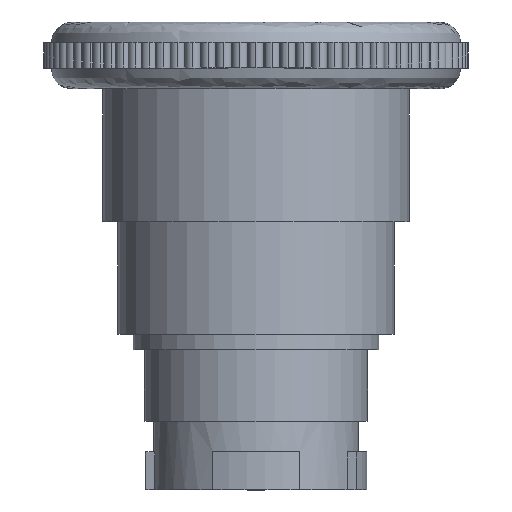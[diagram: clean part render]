
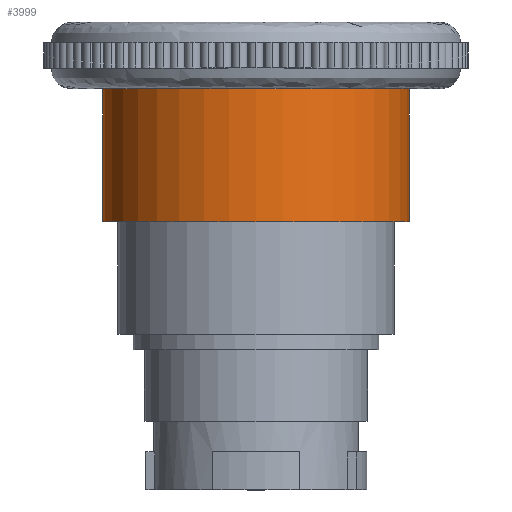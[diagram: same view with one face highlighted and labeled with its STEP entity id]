
A CAD part, top view. The second image highlights one B-rep face of the part: STEP entity #3999.
In plain terms, the highlighted cylindrical face has radius 15 mm (diameter 30 mm), a partial arc.
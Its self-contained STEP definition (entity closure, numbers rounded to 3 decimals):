
#22 = CARTESIAN_POINT ( 'NONE',  ( 15., 26.2, 0. ) ) ;
#216 = CIRCLE ( 'NONE', #13093, 15. ) ;
#319 = FACE_OUTER_BOUND ( 'NONE', #3032, .T. ) ;
#634 = ORIENTED_EDGE ( 'NONE', *, *, #18502, .T. ) ;
#1583 = CARTESIAN_POINT ( 'NONE',  ( 15., 39.2, 0. ) ) ;
#1776 = VECTOR ( 'NONE', #4214, 1000. ) ;
#2470 = CYLINDRICAL_SURFACE ( 'NONE', #9508, 15. ) ;
#2518 = CARTESIAN_POINT ( 'NONE',  ( -15., 39.2, 0. ) ) ;
#3032 = EDGE_LOOP ( 'NONE', ( #634, #10008, #16580, #14232 ) ) ;
#3137 = AXIS2_PLACEMENT_3D ( 'NONE', #6891, #17674, #8436 ) ;
#3999 = ADVANCED_FACE ( 'NONE', ( #319 ), #2470, .T. ) ;
#4214 = DIRECTION ( 'NONE',  ( 0., 1., 0. ) ) ;
#4714 = CARTESIAN_POINT ( 'NONE',  ( 0., 45.7, 0. ) ) ;
#6343 = LINE ( 'NONE', #15036, #1776 ) ;
#6891 = CARTESIAN_POINT ( 'NONE',  ( 0., 39.2, 0. ) ) ;
#8058 = CARTESIAN_POINT ( 'NONE',  ( -15., 26.2, 0. ) ) ;
#8436 = DIRECTION ( 'NONE',  ( -1., 0., 0. ) ) ;
#8745 = LINE ( 'NONE', #17829, #16946 ) ;
#8843 = CARTESIAN_POINT ( 'NONE',  ( 0., 26.2, 0. ) ) ;
#9503 = VERTEX_POINT ( 'NONE', #22 ) ;
#9508 = AXIS2_PLACEMENT_3D ( 'NONE', #4714, #15527, #12464 ) ;
#10008 = ORIENTED_EDGE ( 'NONE', *, *, #15415, .T. ) ;
#10426 = DIRECTION ( 'NONE',  ( -1., 0., 0. ) ) ;
#11288 = EDGE_CURVE ( 'NONE', #15341, #16565, #6343, .T. ) ;
#12464 = DIRECTION ( 'NONE',  ( -1., 0., 0. ) ) ;
#13093 = AXIS2_PLACEMENT_3D ( 'NONE', #8843, #19591, #10426 ) ;
#13129 = DIRECTION ( 'NONE',  ( 0., 1., 0. ) ) ;
#14232 = ORIENTED_EDGE ( 'NONE', *, *, #11288, .F. ) ;
#14372 = EDGE_CURVE ( 'NONE', #16565, #16274, #15186, .T. ) ;
#15036 = CARTESIAN_POINT ( 'NONE',  ( -15., 45.7, 0. ) ) ;
#15186 = CIRCLE ( 'NONE', #3137, 15. ) ;
#15341 = VERTEX_POINT ( 'NONE', #8058 ) ;
#15415 = EDGE_CURVE ( 'NONE', #9503, #16274, #8745, .T. ) ;
#15527 = DIRECTION ( 'NONE',  ( 0., 1., 0. ) ) ;
#16274 = VERTEX_POINT ( 'NONE', #1583 ) ;
#16565 = VERTEX_POINT ( 'NONE', #2518 ) ;
#16580 = ORIENTED_EDGE ( 'NONE', *, *, #14372, .F. ) ;
#16946 = VECTOR ( 'NONE', #13129, 1000. ) ;
#17674 = DIRECTION ( 'NONE',  ( 0., 1., 0. ) ) ;
#17829 = CARTESIAN_POINT ( 'NONE',  ( 15., 45.7, 0. ) ) ;
#18502 = EDGE_CURVE ( 'NONE', #15341, #9503, #216, .T. ) ;
#19591 = DIRECTION ( 'NONE',  ( 0., 1., 0. ) ) ;
